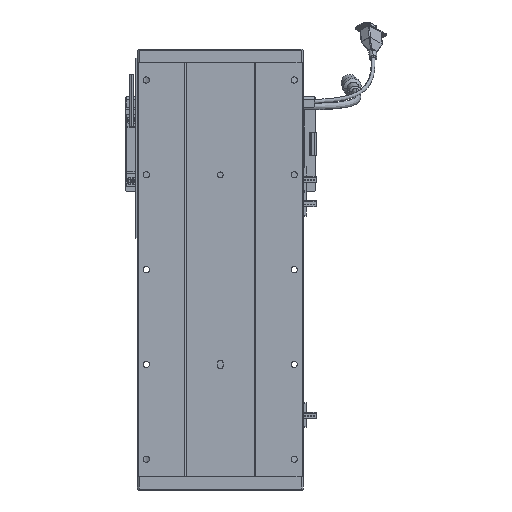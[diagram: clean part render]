
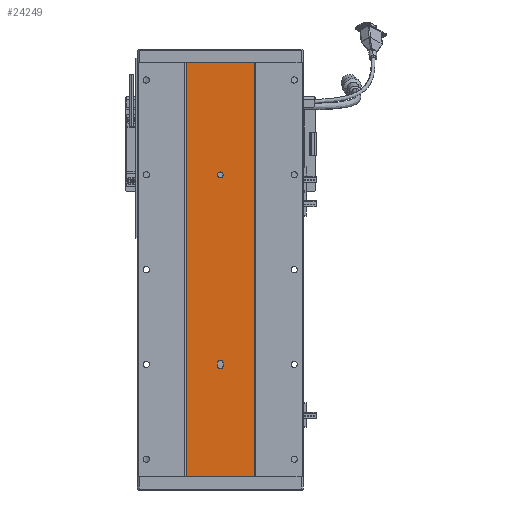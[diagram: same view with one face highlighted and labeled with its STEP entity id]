
A CAD part, front view. The second image highlights one B-rep face of the part: STEP entity #24249.
In plain terms, the highlighted planar face has unit normal (0, -1, 0).
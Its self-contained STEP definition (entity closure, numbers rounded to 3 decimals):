
#118 = AXIS2_PLACEMENT_3D ( 'NONE', #63181, #40418, #2329 ) ;
#507 = EDGE_CURVE ( 'NONE', #59115, #54971, #21184, .T. ) ;
#1793 = DIRECTION ( 'NONE',  ( 0., 0., -1. ) ) ;
#2329 = DIRECTION ( 'NONE',  ( 0., 0., -1. ) ) ;
#2810 = CARTESIAN_POINT ( 'NONE',  ( 3277.529, 1415.701, 117. ) ) ;
#3407 = VERTEX_POINT ( 'NONE', #50716 ) ;
#3602 = DIRECTION ( 'NONE',  ( 1., 0., 0. ) ) ;
#3632 = LINE ( 'NONE', #36346, #39209 ) ;
#4109 = EDGE_CURVE ( 'NONE', #26512, #71904, #46007, .T. ) ;
#4372 = VECTOR ( 'NONE', #1793, 1000. ) ;
#4969 = VECTOR ( 'NONE', #40249, 1000. ) ;
#5559 = PLANE ( 'NONE',  #71688 ) ;
#5838 = EDGE_CURVE ( 'NONE', #13351, #59115, #12791, .T. ) ;
#6710 = EDGE_LOOP ( 'NONE', ( #8312, #26084 ) ) ;
#8312 = ORIENTED_EDGE ( 'NONE', *, *, #12938, .F. ) ;
#8617 = DIRECTION ( 'NONE',  ( 1., 0., 0. ) ) ;
#9197 = ORIENTED_EDGE ( 'NONE', *, *, #5838, .F. ) ;
#9416 = CARTESIAN_POINT ( 'NONE',  ( 3277.529, 1415.701, 120. ) ) ;
#10774 = CIRCLE ( 'NONE', #61809, 3. ) ;
#11498 = FACE_OUTER_BOUND ( 'NONE', #19692, .T. ) ;
#12745 = VECTOR ( 'NONE', #8617, 1000. ) ;
#12791 = LINE ( 'NONE', #23747, #4969 ) ;
#12938 = EDGE_CURVE ( 'NONE', #71904, #26512, #10774, .T. ) ;
#13351 = VERTEX_POINT ( 'NONE', #33051 ) ;
#13675 = DIRECTION ( 'NONE',  ( 0., 0., -1. ) ) ;
#13871 = VECTOR ( 'NONE', #25372, 1000. ) ;
#15513 = CARTESIAN_POINT ( 'NONE',  ( 3280.529, 1415.701, 117. ) ) ;
#16305 = CARTESIAN_POINT ( 'NONE',  ( 3244.748, 1415.701, 0. ) ) ;
#17275 = AXIS2_PLACEMENT_3D ( 'NONE', #15513, #65158, #49196 ) ;
#17374 = ORIENTED_EDGE ( 'NONE', *, *, #55862, .F. ) ;
#18427 = CARTESIAN_POINT ( 'NONE',  ( 3316.311, 1415.701, 437. ) ) ;
#18557 = DIRECTION ( 'NONE',  ( 0., -1., 0. ) ) ;
#19692 = EDGE_LOOP ( 'NONE', ( #50710, #25467, #17374, #49996 ) ) ;
#20585 = VECTOR ( 'NONE', #23988, 1000. ) ;
#21184 = CIRCLE ( 'NONE', #43106, 3. ) ;
#21207 = ORIENTED_EDGE ( 'NONE', *, *, #507, .F. ) ;
#21532 = EDGE_LOOP ( 'NONE', ( #48387, #52338, #21207, #9197, #26326 ) ) ;
#21655 = LINE ( 'NONE', #25622, #13871 ) ;
#22315 = DIRECTION ( 'NONE',  ( 0., 0., 1. ) ) ;
#23623 = CARTESIAN_POINT ( 'NONE',  ( 3277.529, 1415.701, 120. ) ) ;
#23747 = CARTESIAN_POINT ( 'NONE',  ( 3283.529, 1415.701, 120. ) ) ;
#23988 = DIRECTION ( 'NONE',  ( 0., 0., -1. ) ) ;
#24249 = ADVANCED_FACE ( 'NONE', ( #66142, #68722, #11498 ), #5559, .F. ) ;
#25349 = CIRCLE ( 'NONE', #64412, 3. ) ;
#25372 = DIRECTION ( 'NONE',  ( 0., 0., -1. ) ) ;
#25467 = ORIENTED_EDGE ( 'NONE', *, *, #43080, .F. ) ;
#25622 = CARTESIAN_POINT ( 'NONE',  ( 3244.748, 1415.701, 437. ) ) ;
#26084 = ORIENTED_EDGE ( 'NONE', *, *, #4109, .F. ) ;
#26150 = CIRCLE ( 'NONE', #17275, 3. ) ;
#26326 = ORIENTED_EDGE ( 'NONE', *, *, #40142, .F. ) ;
#26473 = CARTESIAN_POINT ( 'NONE',  ( 3283.529, 1415.701, 120. ) ) ;
#26512 = VERTEX_POINT ( 'NONE', #28803 ) ;
#26723 = VERTEX_POINT ( 'NONE', #47449 ) ;
#26729 = EDGE_CURVE ( 'NONE', #26723, #58256, #21655, .T. ) ;
#27878 = VERTEX_POINT ( 'NONE', #52160 ) ;
#28803 = CARTESIAN_POINT ( 'NONE',  ( 3280.529, 1415.701, 321.5 ) ) ;
#29928 = DIRECTION ( 'NONE',  ( 0., 0., -1. ) ) ;
#30375 = CARTESIAN_POINT ( 'NONE',  ( 3280.529, 1415.701, 117. ) ) ;
#32185 = LINE ( 'NONE', #23623, #4372 ) ;
#33051 = CARTESIAN_POINT ( 'NONE',  ( 3283.529, 1415.701, 117. ) ) ;
#34622 = CARTESIAN_POINT ( 'NONE',  ( 3280.529, 1415.701, 114. ) ) ;
#34718 = EDGE_CURVE ( 'NONE', #54971, #42156, #32185, .T. ) ;
#36346 = CARTESIAN_POINT ( 'NONE',  ( 3244.748, 1415.701, 0. ) ) ;
#37421 = DIRECTION ( 'NONE',  ( 0., 0., -1. ) ) ;
#39209 = VECTOR ( 'NONE', #3602, 1000. ) ;
#39496 = EDGE_CURVE ( 'NONE', #58256, #27878, #3632, .T. ) ;
#40142 = EDGE_CURVE ( 'NONE', #70112, #13351, #25349, .T. ) ;
#40249 = DIRECTION ( 'NONE',  ( 0., 0., 1. ) ) ;
#40418 = DIRECTION ( 'NONE',  ( 0., -1., 0. ) ) ;
#42156 = VERTEX_POINT ( 'NONE', #2810 ) ;
#43080 = EDGE_CURVE ( 'NONE', #3407, #27878, #71734, .T. ) ;
#43106 = AXIS2_PLACEMENT_3D ( 'NONE', #53926, #59699, #37421 ) ;
#46007 = CIRCLE ( 'NONE', #118, 3. ) ;
#47449 = CARTESIAN_POINT ( 'NONE',  ( 3244.748, 1415.701, 437. ) ) ;
#48387 = ORIENTED_EDGE ( 'NONE', *, *, #59653, .F. ) ;
#49196 = DIRECTION ( 'NONE',  ( 0., 0., -1. ) ) ;
#49996 = ORIENTED_EDGE ( 'NONE', *, *, #26729, .T. ) ;
#50710 = ORIENTED_EDGE ( 'NONE', *, *, #39496, .T. ) ;
#50716 = CARTESIAN_POINT ( 'NONE',  ( 3316.311, 1415.701, 437. ) ) ;
#51371 = CARTESIAN_POINT ( 'NONE',  ( 3280.529, 1415.701, 315.5 ) ) ;
#51787 = CARTESIAN_POINT ( 'NONE',  ( 3280.529, 1415.701, 318.5 ) ) ;
#52160 = CARTESIAN_POINT ( 'NONE',  ( 3316.311, 1415.701, 0. ) ) ;
#52338 = ORIENTED_EDGE ( 'NONE', *, *, #34718, .F. ) ;
#53489 = CARTESIAN_POINT ( 'NONE',  ( 3244.748, 1415.701, 437. ) ) ;
#53926 = CARTESIAN_POINT ( 'NONE',  ( 3280.529, 1415.701, 120. ) ) ;
#54971 = VERTEX_POINT ( 'NONE', #9416 ) ;
#55509 = DIRECTION ( 'NONE',  ( 0., 1., 0. ) ) ;
#55862 = EDGE_CURVE ( 'NONE', #26723, #3407, #57865, .T. ) ;
#57865 = LINE ( 'NONE', #53489, #12745 ) ;
#58256 = VERTEX_POINT ( 'NONE', #16305 ) ;
#59115 = VERTEX_POINT ( 'NONE', #26473 ) ;
#59653 = EDGE_CURVE ( 'NONE', #42156, #70112, #26150, .T. ) ;
#59699 = DIRECTION ( 'NONE',  ( 0., -1., 0. ) ) ;
#61081 = CARTESIAN_POINT ( 'NONE',  ( 3244.748, 1415.701, 437. ) ) ;
#61809 = AXIS2_PLACEMENT_3D ( 'NONE', #51787, #18557, #29928 ) ;
#63113 = DIRECTION ( 'NONE',  ( 0., -1., 0. ) ) ;
#63181 = CARTESIAN_POINT ( 'NONE',  ( 3280.529, 1415.701, 318.5 ) ) ;
#64412 = AXIS2_PLACEMENT_3D ( 'NONE', #30375, #63113, #13675 ) ;
#65158 = DIRECTION ( 'NONE',  ( 0., -1., 0. ) ) ;
#66142 = FACE_BOUND ( 'NONE', #21532, .T. ) ;
#68722 = FACE_BOUND ( 'NONE', #6710, .T. ) ;
#70112 = VERTEX_POINT ( 'NONE', #34622 ) ;
#71688 = AXIS2_PLACEMENT_3D ( 'NONE', #61081, #55509, #22315 ) ;
#71734 = LINE ( 'NONE', #18427, #20585 ) ;
#71904 = VERTEX_POINT ( 'NONE', #51371 ) ;
